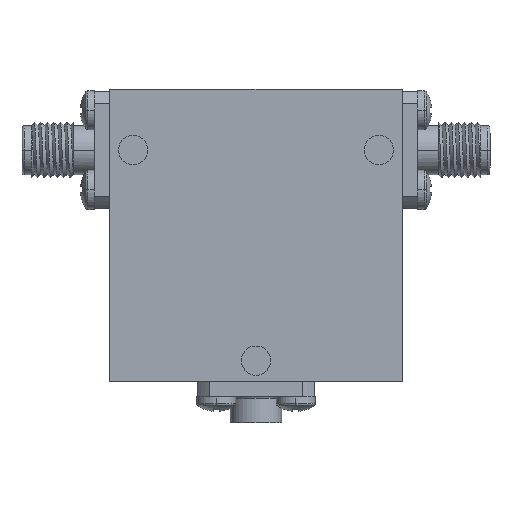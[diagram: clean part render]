
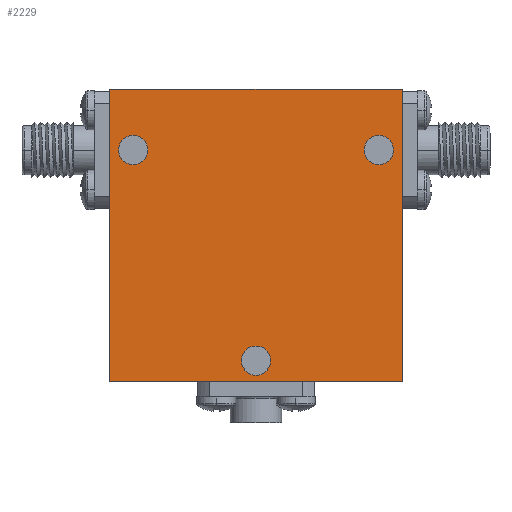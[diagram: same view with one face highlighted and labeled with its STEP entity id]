
A CAD part, top view. The second image highlights one B-rep face of the part: STEP entity #2229.
In plain terms, the highlighted planar face has unit normal (0, 0, 1) as drawn and (0, 0, -1) by its records, which use the part's own axes.
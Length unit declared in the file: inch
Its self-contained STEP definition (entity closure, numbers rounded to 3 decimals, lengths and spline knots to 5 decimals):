
#38 = EDGE_CURVE ( 'NONE', #1480, #1911, #4756, .T. ) ;
#75 = DIRECTION ( 'NONE',  ( 1., 0., 0. ) ) ;
#107 = DIRECTION ( 'NONE',  ( 0., 0., 1. ) ) ;
#177 = CARTESIAN_POINT ( 'NONE',  ( 0., 0., -0.25 ) ) ;
#271 = ORIENTED_EDGE ( 'NONE', *, *, #3421, .T. ) ;
#420 = FACE_BOUND ( 'NONE', #4388, .T. ) ;
#444 = CARTESIAN_POINT ( 'NONE',  ( 0.5625, 0.09, -0.25 ) ) ;
#529 = AXIS2_PLACEMENT_3D ( 'NONE', #4098, #1464, #662 ) ;
#552 = CARTESIAN_POINT ( 'NONE',  ( 0.1, 0.99, -0.25 ) ) ;
#560 = DIRECTION ( 'NONE',  ( 0., 0., 1. ) ) ;
#578 = DIRECTION ( 'NONE',  ( 1., 0., 0. ) ) ;
#627 = LINE ( 'NONE', #1814, #4392 ) ;
#628 = AXIS2_PLACEMENT_3D ( 'NONE', #552, #3116, #3945 ) ;
#662 = DIRECTION ( 'NONE',  ( 1., 0., 0. ) ) ;
#760 = CARTESIAN_POINT ( 'NONE',  ( 1.25, 0., -0.25 ) ) ;
#761 = EDGE_LOOP ( 'NONE', ( #1220, #271 ) ) ;
#833 = FACE_BOUND ( 'NONE', #2987, .T. ) ;
#958 = EDGE_CURVE ( 'NONE', #2445, #4192, #1752, .T. ) ;
#1054 = CARTESIAN_POINT ( 'NONE',  ( 1.2125, 0.99, -0.25 ) ) ;
#1220 = ORIENTED_EDGE ( 'NONE', *, *, #958, .T. ) ;
#1231 = VERTEX_POINT ( 'NONE', #444 ) ;
#1260 = CIRCLE ( 'NONE', #628, 0.0625 ) ;
#1325 = DIRECTION ( 'NONE',  ( 1., 0., 0. ) ) ;
#1333 = ORIENTED_EDGE ( 'NONE', *, *, #3547, .F. ) ;
#1385 = CARTESIAN_POINT ( 'NONE',  ( 0.6875, 0.09, -0.25 ) ) ;
#1411 = CARTESIAN_POINT ( 'NONE',  ( 1.25, 1.25, -0.25 ) ) ;
#1421 = CARTESIAN_POINT ( 'NONE',  ( 0.1625, 0.99, -0.25 ) ) ;
#1457 = AXIS2_PLACEMENT_3D ( 'NONE', #2094, #4737, #2075 ) ;
#1464 = DIRECTION ( 'NONE',  ( 0., 0., 1. ) ) ;
#1475 = ORIENTED_EDGE ( 'NONE', *, *, #38, .F. ) ;
#1480 = VERTEX_POINT ( 'NONE', #4502 ) ;
#1662 = VECTOR ( 'NONE', #3064, 39.37008 ) ;
#1728 = VERTEX_POINT ( 'NONE', #2681 ) ;
#1752 = CIRCLE ( 'NONE', #529, 0.0625 ) ;
#1780 = CARTESIAN_POINT ( 'NONE',  ( 0.1, 0.99, -0.25 ) ) ;
#1814 = CARTESIAN_POINT ( 'NONE',  ( 0., 1.25, -0.25 ) ) ;
#1911 = VERTEX_POINT ( 'NONE', #760 ) ;
#1926 = DIRECTION ( 'NONE',  ( 1., 0., 0. ) ) ;
#1944 = CARTESIAN_POINT ( 'NONE',  ( 0., 1.25, -0.25 ) ) ;
#1990 = AXIS2_PLACEMENT_3D ( 'NONE', #177, #560, #1325 ) ;
#2075 = DIRECTION ( 'NONE',  ( 1., 0., 0. ) ) ;
#2094 = CARTESIAN_POINT ( 'NONE',  ( 0.625, 0.09, -0.25 ) ) ;
#2121 = AXIS2_PLACEMENT_3D ( 'NONE', #4588, #107, #75 ) ;
#2229 = ADVANCED_FACE ( 'NONE', ( #3970, #833, #420, #4843 ), #4324, .F. ) ;
#2240 = LINE ( 'NONE', #1944, #1662 ) ;
#2244 = VECTOR ( 'NONE', #4061, 39.37008 ) ;
#2253 = CIRCLE ( 'NONE', #1457, 0.0625 ) ;
#2390 = VERTEX_POINT ( 'NONE', #4775 ) ;
#2407 = ORIENTED_EDGE ( 'NONE', *, *, #2875, .F. ) ;
#2411 = EDGE_CURVE ( 'NONE', #3918, #4038, #3117, .T. ) ;
#2445 = VERTEX_POINT ( 'NONE', #1054 ) ;
#2475 = CARTESIAN_POINT ( 'NONE',  ( 0.0375, 0.99, -0.25 ) ) ;
#2594 = EDGE_CURVE ( 'NONE', #1911, #1728, #2638, .T. ) ;
#2616 = EDGE_LOOP ( 'NONE', ( #3707, #1475, #1333, #2407 ) ) ;
#2620 = CARTESIAN_POINT ( 'NONE',  ( 1.15, 0.99, -0.25 ) ) ;
#2627 = AXIS2_PLACEMENT_3D ( 'NONE', #2620, #3709, #3136 ) ;
#2638 = LINE ( 'NONE', #1411, #2244 ) ;
#2670 = ORIENTED_EDGE ( 'NONE', *, *, #3963, .T. ) ;
#2681 = CARTESIAN_POINT ( 'NONE',  ( 1.25, 1.25, -0.25 ) ) ;
#2875 = EDGE_CURVE ( 'NONE', #1728, #2390, #2240, .T. ) ;
#2884 = DIRECTION ( 'NONE',  ( 0., 0., 1. ) ) ;
#2962 = ORIENTED_EDGE ( 'NONE', *, *, #4574, .T. ) ;
#2987 = EDGE_LOOP ( 'NONE', ( #2670, #2962 ) ) ;
#3030 = CARTESIAN_POINT ( 'NONE',  ( 0., 0., -0.25 ) ) ;
#3056 = CIRCLE ( 'NONE', #2121, 0.0625 ) ;
#3064 = DIRECTION ( 'NONE',  ( -1., 0., 0. ) ) ;
#3116 = DIRECTION ( 'NONE',  ( 0., 0., 1. ) ) ;
#3117 = CIRCLE ( 'NONE', #3843, 0.0625 ) ;
#3136 = DIRECTION ( 'NONE',  ( 1., 0., 0. ) ) ;
#3217 = VERTEX_POINT ( 'NONE', #1385 ) ;
#3222 = ORIENTED_EDGE ( 'NONE', *, *, #3682, .T. ) ;
#3400 = CARTESIAN_POINT ( 'NONE',  ( 1.0875, 0.99, -0.25 ) ) ;
#3421 = EDGE_CURVE ( 'NONE', #4192, #2445, #4474, .T. ) ;
#3547 = EDGE_CURVE ( 'NONE', #2390, #1480, #627, .T. ) ;
#3682 = EDGE_CURVE ( 'NONE', #4038, #3918, #1260, .T. ) ;
#3694 = VECTOR ( 'NONE', #1926, 39.37008 ) ;
#3707 = ORIENTED_EDGE ( 'NONE', *, *, #2594, .F. ) ;
#3709 = DIRECTION ( 'NONE',  ( 0., 0., 1. ) ) ;
#3843 = AXIS2_PLACEMENT_3D ( 'NONE', #1780, #2884, #578 ) ;
#3918 = VERTEX_POINT ( 'NONE', #2475 ) ;
#3945 = DIRECTION ( 'NONE',  ( 1., 0., 0. ) ) ;
#3961 = ORIENTED_EDGE ( 'NONE', *, *, #2411, .T. ) ;
#3963 = EDGE_CURVE ( 'NONE', #3217, #1231, #2253, .T. ) ;
#3970 = FACE_BOUND ( 'NONE', #761, .T. ) ;
#4038 = VERTEX_POINT ( 'NONE', #1421 ) ;
#4061 = DIRECTION ( 'NONE',  ( 0., 1., 0. ) ) ;
#4098 = CARTESIAN_POINT ( 'NONE',  ( 1.15, 0.99, -0.25 ) ) ;
#4192 = VERTEX_POINT ( 'NONE', #3400 ) ;
#4324 = PLANE ( 'NONE',  #1990 ) ;
#4388 = EDGE_LOOP ( 'NONE', ( #3222, #3961 ) ) ;
#4392 = VECTOR ( 'NONE', #4436, 39.37008 ) ;
#4436 = DIRECTION ( 'NONE',  ( 0., -1., 0. ) ) ;
#4474 = CIRCLE ( 'NONE', #2627, 0.0625 ) ;
#4502 = CARTESIAN_POINT ( 'NONE',  ( 0., 0., -0.25 ) ) ;
#4574 = EDGE_CURVE ( 'NONE', #1231, #3217, #3056, .T. ) ;
#4588 = CARTESIAN_POINT ( 'NONE',  ( 0.625, 0.09, -0.25 ) ) ;
#4737 = DIRECTION ( 'NONE',  ( 0., 0., 1. ) ) ;
#4756 = LINE ( 'NONE', #3030, #3694 ) ;
#4775 = CARTESIAN_POINT ( 'NONE',  ( 0., 1.25, -0.25 ) ) ;
#4843 = FACE_OUTER_BOUND ( 'NONE', #2616, .T. ) ;
